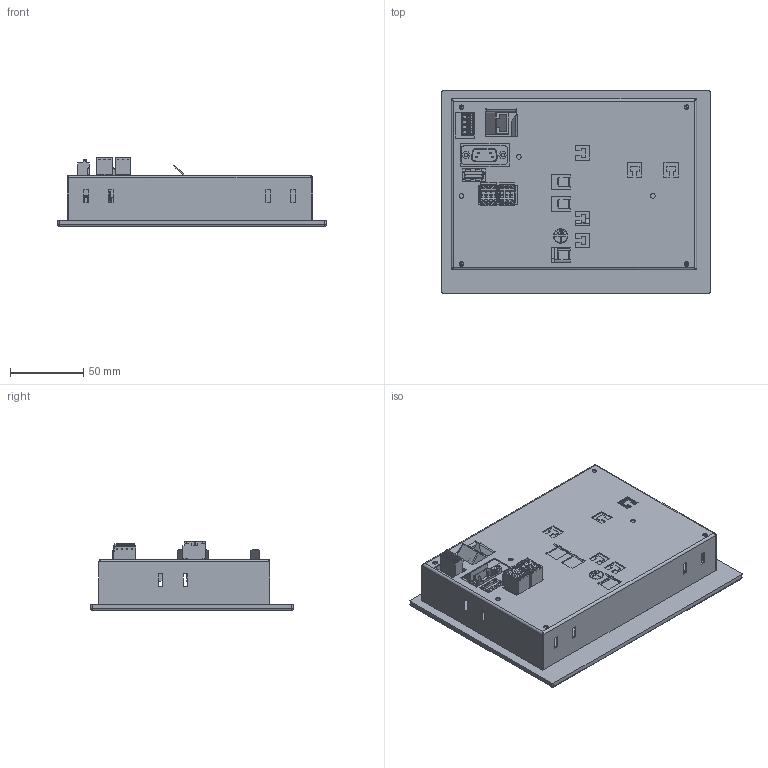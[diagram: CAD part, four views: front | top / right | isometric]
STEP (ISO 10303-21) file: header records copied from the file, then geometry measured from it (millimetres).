
FILE_DESCRIPTION (( 'STEP AP214' ), '1' );
FILE_NAME ('ETT732 Support.STEP', '2015-12-04T06:44:04', ( 'SIGMATEK GmbH & Co KG' ), ( 'SIGMATEK GmbH & Co KG' ), 'SwSTEP 2.0', 'SolidWorks 2015', '' );
FILE_SCHEMA (( 'AUTOMOTIVE_DESIGN' ));
Length unit declared in the file: millimetre
Products named in the file (15): ETT732 Gehäuse Support; 4080221090 s2l_3_5_6_90g_3_5sn_or_1727560000; 4110262104 4pol.Federkraftstecker f.2reih 1952283; Display 7 Zoll Multi-Inno_MI0700S4T-3 V1.3_ohne Touchtail; Front V2.0 HZS732-H; fhl_m3_8; 110802_Support; Abstandsbolzen ABM0305II06,5 Ms-vernickel; 4080225193_6pol. Stiftleiste 2reih.gew. S2L-SMT3.5-6-180G_1794530000; D-Sub 9polig male; 4070211033 USB-A-004 Universal Serial Bus, Type A-180° Receptacle (TH); 4060212243 RJ45 Buchse 45°71HAN51100K001 ; 4110262144 mcv_1.5-4-g-3.5-tht 1937622; ETT732 Support
Assembly tree (21 placements, depth 3):
  ETT732 Support
    110802_Support
      4110262144 mcv_1.5-4-g-3.5-tht 1937622
      4060212243 RJ45 Buchse 45°71HAN51100K001 
      4070211033 USB-A-004 Universal Serial Bus, Type A-180° Receptacle (TH)
      D-Sub 9polig male
      4080225193_6pol. Stiftleiste 2reih.gew. S2L-SMT3.5-6-180G_1794530000  x2
      Abstandsbolzen ABM0305II06,5 Ms-vernickel  x2
    Front V2.0 HZS732-H
      Front V2.0 HZS732-H
      fhl_m3_8  x5
    Display 7 Zoll Multi-Inno_MI0700S4T-3 V1.3_ohne Touchtail
    4110262104 4pol.Federkraftstecker f.2reih 1952283
    4080221090 s2l_3_5_6_90g_3_5sn_or_1727560000  x2
    ETT732 Gehäuse Support
Bounding box: 183.6 x 138.8 x 47.1 mm (x, y, z)
Volume: 190223.2 mm3; surface area: 165432.1 mm2
Topology: 21 solids, 22 shells, 2486 faces, 6459 edges, 4164 vertices
Faces by surface type: plane 1823, cylinder 509, cone 108, bspline 37, torus 6, sphere 3
Full cylindrical faces by diameter (mm): 0.2 x1
Entity records: 62167 total; most frequent: CARTESIAN_POINT 11661, ORIENTED_EDGE 9898, DIRECTION 9331, EDGE_CURVE 4949, VECTOR 3851, LINE 3851, VERTEX_POINT 3202, AXIS2_PLACEMENT_3D 2740
